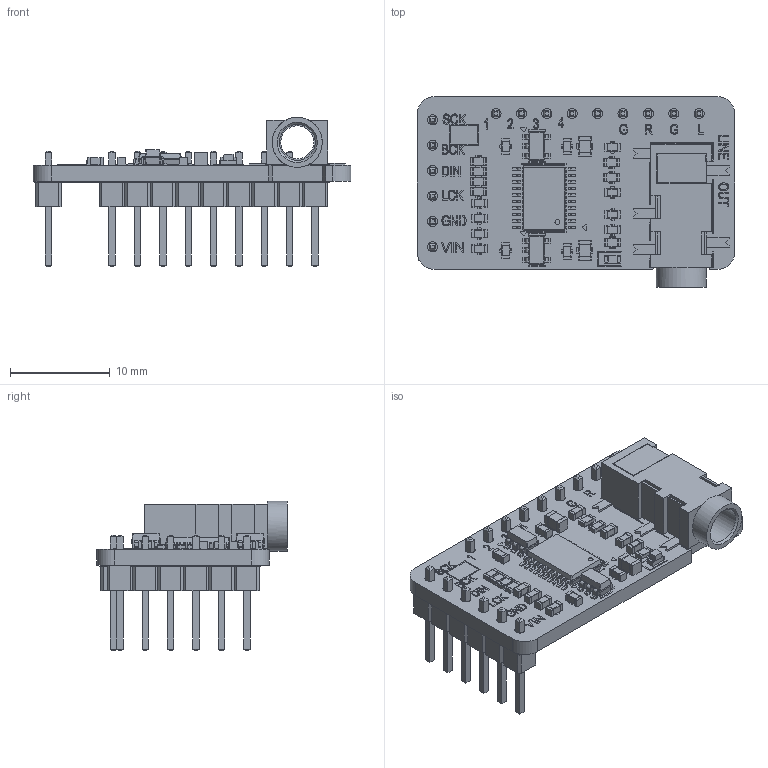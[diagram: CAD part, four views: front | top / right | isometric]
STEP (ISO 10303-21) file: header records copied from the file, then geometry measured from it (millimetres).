
FILE_DESCRIPTION(('FreeCAD Model'),'2;1');
FILE_NAME('Open CASCADE Shape Model','2025-02-16T17:37:25',( 'kicad StepUp'),('ksu MCAD'),'Open CASCADE STEP processor 7.8', 'FreeCAD','Unknown');
FILE_SCHEMA(('AUTOMOTIVE_DESIGN { 1 0 10303 214 1 1 1 1 }'));
Length unit declared in the file: millimetre
Products named in the file (17): PCM5102_Modul; Board_Geoms_e102; Pcb_e102; topSilks_780b; botSilks_75df; Step_Models_e102; Top_e102; C13_C_0603_1608Metric_fe494fe29558; U3_SOT_23_5_215b9efe0f9c; U2_TSSOP_20_44x65mm_P065mm_d0068de2549f; R7_R_0603_1608Metric_fcd2d6c932f5; C2_C_0805_2012Metric_0ac201e7e1f9; J3_PJ-327A_7183a15533ae; D1_LED_0603_1608Metric_b5c2f6ca02fa; Bot_e102; J2_PinHeader_1x09_P254mm_Vertical_94b9bb8abd76; J1_PinHeader_1x06_P254mm_Vertical_a7862d32d6b2
Assembly tree (36 placements, depth 4):
  PCM5102_Modul
    Board_Geoms_e102
      Pcb_e102
      topSilks_780b
      botSilks_75df
    Step_Models_e102
      Top_e102
        C13_C_0603_1608Metric_fe494fe29558  x12
        U3_SOT_23_5_215b9efe0f9c  x2
        U2_TSSOP_20_44x65mm_P065mm_d0068de2549f
        R7_R_0603_1608Metric_fcd2d6c932f5  x7
        C2_C_0805_2012Metric_0ac201e7e1f9  x2
        J3_PJ-327A_7183a15533ae  x2
        D1_LED_0603_1608Metric_b5c2f6ca02fa
      Bot_e102
        J2_PinHeader_1x09_P254mm_Vertical_94b9bb8abd76
        J1_PinHeader_1x06_P254mm_Vertical_a7862d32d6b2
Bounding box: 31.8 x 19.1 x 14.94 mm (x, y, z)
Volume: 1624.7 mm3; surface area: 3580.6 mm2
Topology: 30 solids, 209 shells, 1964 faces, 11003 edges, 9344 vertices
Faces by surface type: plane 1472, cylinder 384, bspline 102, torus 4, cone 2
Full cylindrical faces by diameter (mm): 0.5 x1, 0.8 x4, 1 x15, 1.1 x2, 3.3 x2, 3.6 x2, 5 x2
Entity records: 96681 total; most frequent: CARTESIAN_POINT 18892, ORIENTED_EDGE 11942, DIRECTION 11892, EDGE_CURVE 9167, LINE 8760, VECTOR 8760, VERTEX_POINT 8146, AXIS2_PLACEMENT_3D 1566
